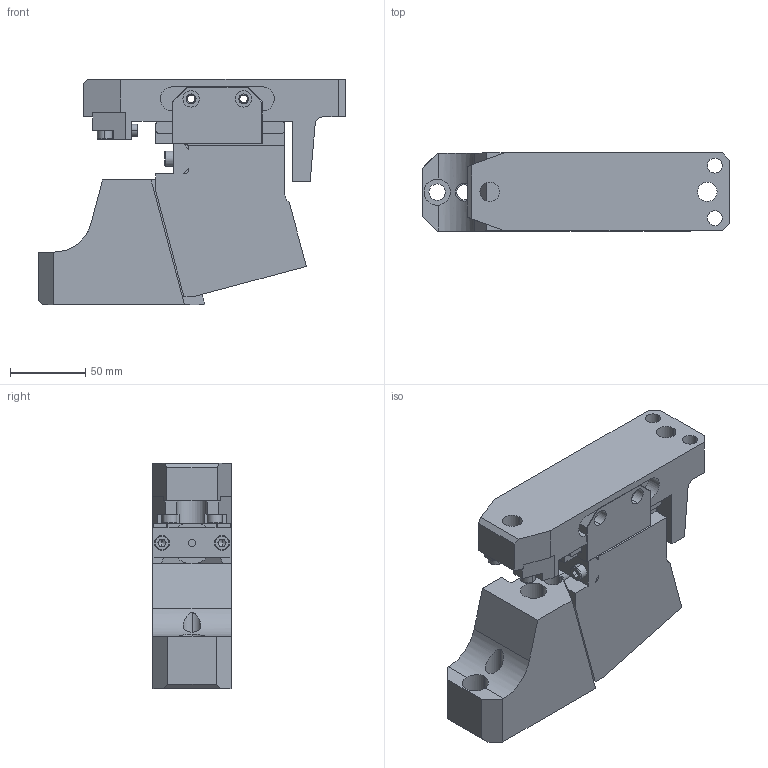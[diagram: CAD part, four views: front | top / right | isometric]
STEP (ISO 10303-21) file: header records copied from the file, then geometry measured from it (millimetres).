
FILE_DESCRIPTION (( 'STEP AP203' ), '1' );
FILE_NAME ('CLD052.75.step', '2014-05-05T08:34:59', ( '' ), ( '' ), 'SwSTEP 2.0', 'SolidWorks 2013', '' );
FILE_SCHEMA (( 'CONFIG_CONTROL_DESIGN' ));
Length unit declared in the file: millimetre
Products named in the file (4): CLD05275-01 CAM BASE; CLD05275-02 CAM SLIDER; CLD05275-03 CAM DRIVER; CLD052.75
Assembly tree (3 placements, depth 2):
  CLD052.75
    CLD05275-01 CAM BASE
    CLD05275-02 CAM SLIDER
    CLD05275-03 CAM DRIVER
Bounding box: 205 x 52 x 150 mm (x, y, z)
Volume: 905966.9 mm3; surface area: 144165.7 mm2
Topology: 3 solids, 11 shells, 464 faces, 1186 edges, 739 vertices
Faces by surface type: plane 277, cylinder 134, cone 36, torus 17
Entity records: 14494 total; most frequent: CARTESIAN_POINT 2649, DIRECTION 2442, ORIENTED_EDGE 2336, EDGE_CURVE 1168, AXIS2_PLACEMENT_3D 830, VECTOR 782, LINE 782, VERTEX_POINT 739
